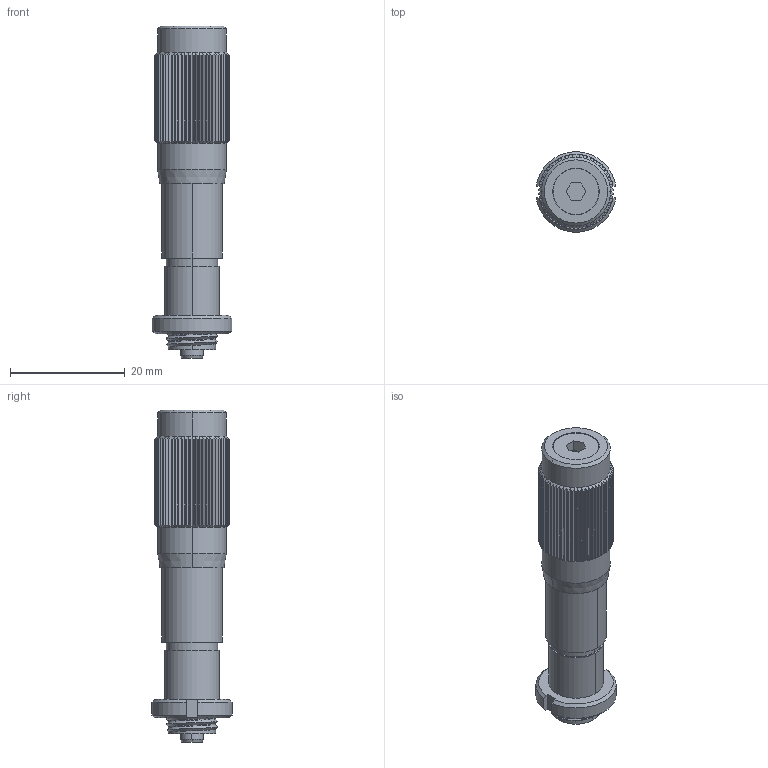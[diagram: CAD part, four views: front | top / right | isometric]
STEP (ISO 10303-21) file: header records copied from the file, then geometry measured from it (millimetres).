
FILE_DESCRIPTION((''),'2;1');
FILE_NAME('SM13_ASM','2021-01-19T',('Administrator'),(''),'CREO PARAMETRIC BY PTC INC, 2015290','CREO PARAMETRIC BY PTC INC, 2015290','');
FILE_SCHEMA(('CONFIG_CONTROL_DESIGN'));
Length unit declared in the file: millimetre
Products named in the file (7): SM13_A1; SM13_A2; SM13_A6; SM13_A3; SM13_A4; SM25_A5; SM13_ASM
Assembly tree (6 placements, depth 2):
  SM13_ASM
    SM13_A1
    SM13_A2
    SM13_A6
    SM13_A3
    SM13_A4
    SM25_A5
Bounding box: 13.86 x 13.95 x 57.8 mm (x, y, z)
Volume: 4190.8 mm3; surface area: 6495.6 mm2
Topology: 6 solids, 6 shells, 634 faces, 1737 edges, 1128 vertices
Faces by surface type: cylinder 339, plane 161, bspline 100, cone 34
Entity records: 41349 total; most frequent: CARTESIAN_POINT 26919, ORIENTED_EDGE 3470, DIRECTION 2215, EDGE_CURVE 1735, VERTEX_POINT 1128, B_SPLINE_CURVE_WITH_KNOTS 863, AXIS2_PLACEMENT_3D 796, EDGE_LOOP 657
